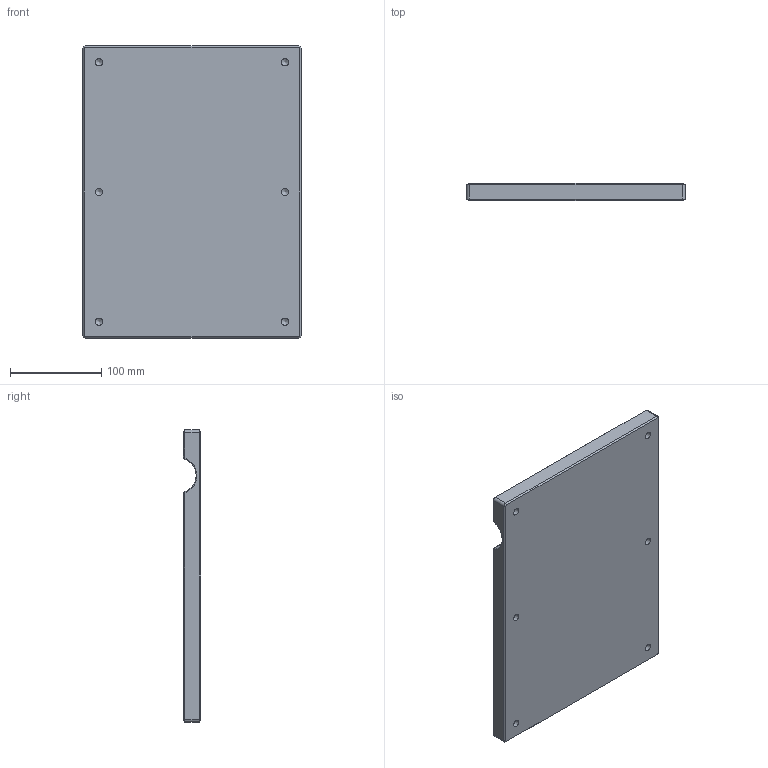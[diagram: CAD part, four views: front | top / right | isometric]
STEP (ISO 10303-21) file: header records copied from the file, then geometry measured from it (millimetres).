
FILE_DESCRIPTION (( 'STEP AP214' ), '1' );
FILE_NAME ('MONO_038-p111_01.STEP', '2025-10-01T01:43:49', ( '' ), ( '' ), 'SwSTEP 2.0', 'SolidWorks 2024', '' );
FILE_SCHEMA (( 'AUTOMOTIVE_DESIGN' ));
Length unit declared in the file: millimetre
Products named in the file (1): MONO_038-p111_01
Bounding box: 239 x 19 x 320 mm (x, y, z)
Volume: 1355679.1 mm3; surface area: 176382.9 mm2
Topology: 1 solids, 1 shells, 50 faces, 122 edges, 74 vertices
Faces by surface type: plane 17, cone 14, cylinder 13, bspline 4, torus 2
Full cylindrical faces by diameter (mm): 8 x6
Entity records: 1419 total; most frequent: CARTESIAN_POINT 363, ORIENTED_EDGE 208, DIRECTION 206, EDGE_CURVE 104, AXIS2_PLACEMENT_3D 79, VERTEX_POINT 68, EDGE_LOOP 62, FACE_OUTER_BOUND 56
